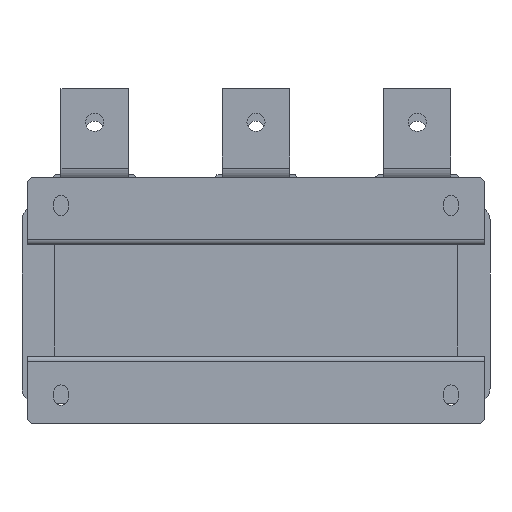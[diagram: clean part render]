
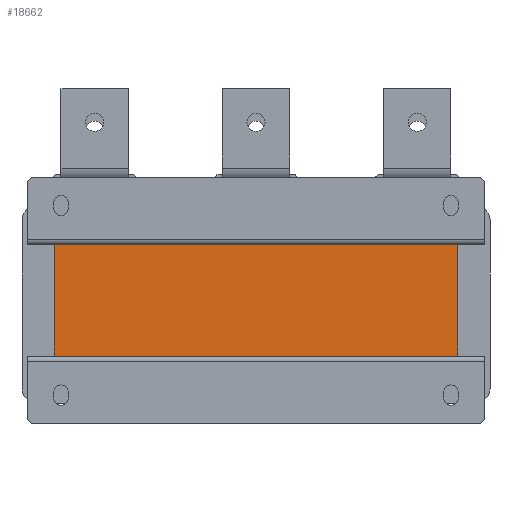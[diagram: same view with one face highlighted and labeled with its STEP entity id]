
A CAD part, front view. The second image highlights one B-rep face of the part: STEP entity #18662.
In plain terms, the highlighted planar face has unit normal (0, -1, 0).
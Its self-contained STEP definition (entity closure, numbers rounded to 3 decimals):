
#1638=LINE('',#30054,#3328);
#1706=LINE('',#30225,#3396);
#1856=LINE('',#30603,#3546);
#1858=LINE('',#30607,#3548);
#3328=VECTOR('',#23919,10.);
#3396=VECTOR('',#24103,10.);
#3546=VECTOR('',#24493,10.);
#3548=VECTOR('',#24499,10.);
#4507=PLANE('',#20078);
#5807=FACE_OUTER_BOUND('',#7092,.T.);
#7092=EDGE_LOOP('',(#16357,#16358,#16359,#16360));
#9066=VERTEX_POINT('',#30041);
#9071=VERTEX_POINT('',#30052);
#9111=VERTEX_POINT('',#30212);
#9116=VERTEX_POINT('',#30223);
#11339=EDGE_CURVE('',#9071,#9066,#1638,.T.);
#11424=EDGE_CURVE('',#9116,#9111,#1706,.T.);
#11612=EDGE_CURVE('',#9116,#9066,#1856,.T.);
#11614=EDGE_CURVE('',#9071,#9111,#1858,.T.);
#16357=ORIENTED_EDGE('',*,*,#11614,.T.);
#16358=ORIENTED_EDGE('',*,*,#11424,.F.);
#16359=ORIENTED_EDGE('',*,*,#11612,.T.);
#16360=ORIENTED_EDGE('',*,*,#11339,.F.);
#18662=ADVANCED_FACE('',(#5807),#4507,.T.);
#20078=AXIS2_PLACEMENT_3D('',#30627,#24532,#24533);
#23919=DIRECTION('',(-1.,0.,0.));
#24103=DIRECTION('',(1.,0.,0.));
#24493=DIRECTION('',(0.,0.,-1.));
#24499=DIRECTION('',(0.,0.,1.));
#24532=DIRECTION('center_axis',(0.,-1.,0.));
#24533=DIRECTION('ref_axis',(1.,0.,0.));
#30041=CARTESIAN_POINT('',(-150.,-197.,-41.5));
#30052=CARTESIAN_POINT('',(150.,-197.,-41.5));
#30054=CARTESIAN_POINT('',(150.,-197.,-41.5));
#30212=CARTESIAN_POINT('',(150.,-197.,41.5));
#30223=CARTESIAN_POINT('',(-150.,-197.,41.5));
#30225=CARTESIAN_POINT('',(150.,-197.,41.5));
#30603=CARTESIAN_POINT('',(-150.,-197.,0.));
#30607=CARTESIAN_POINT('',(150.,-197.,0.));
#30627=CARTESIAN_POINT('Origin',(-150.,-197.,0.));
